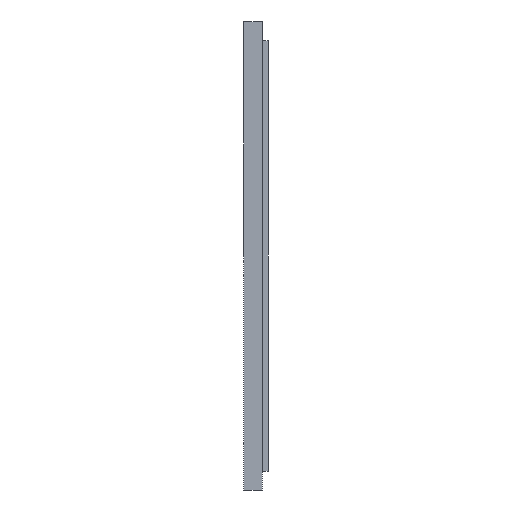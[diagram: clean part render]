
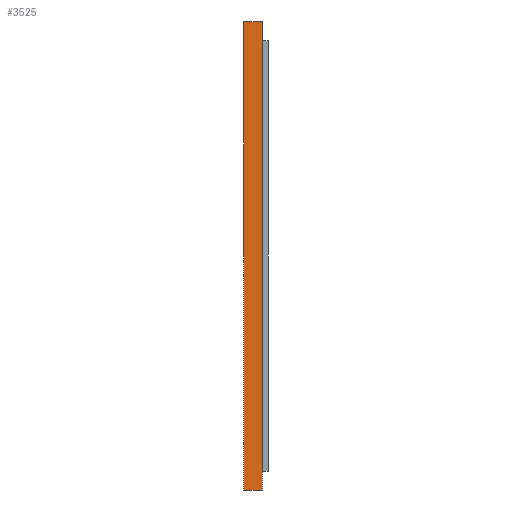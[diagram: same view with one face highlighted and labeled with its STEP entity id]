
A CAD part, left-side view. The second image highlights one B-rep face of the part: STEP entity #3525.
In plain terms, the highlighted planar face has unit normal (-1, 0, 0).
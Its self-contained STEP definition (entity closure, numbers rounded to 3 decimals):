
#22 = FACE_OUTER_BOUND ( 'NONE', #14984, .T. ) ;
#993 = ORIENTED_EDGE ( 'NONE', *, *, #13788, .T. ) ;
#2688 = LINE ( 'NONE', #17580, #5908 ) ;
#2862 = CARTESIAN_POINT ( 'NONE',  ( -227.5, 0.2, -2.5 ) ) ;
#3525 = ADVANCED_FACE ( 'NONE', ( #22 ), #18928, .F. ) ;
#3612 = CARTESIAN_POINT ( 'NONE',  ( -227.5, 0.2, -2.5 ) ) ;
#3668 = VERTEX_POINT ( 'NONE', #15661 ) ;
#3990 = CARTESIAN_POINT ( 'NONE',  ( -227.5, 0., -2.5 ) ) ;
#5488 = VECTOR ( 'NONE', #6218, 1000. ) ;
#5908 = VECTOR ( 'NONE', #9073, 1000. ) ;
#6218 = DIRECTION ( 'NONE',  ( 0., 0., 1. ) ) ;
#6614 = LINE ( 'NONE', #21825, #7022 ) ;
#7022 = VECTOR ( 'NONE', #16795, 1000. ) ;
#7024 = AXIS2_PLACEMENT_3D ( 'NONE', #3612, #10318, #18821 ) ;
#7189 = CARTESIAN_POINT ( 'NONE',  ( -227.5, 0.2, -2.5 ) ) ;
#8359 = ORIENTED_EDGE ( 'NONE', *, *, #19944, .F. ) ;
#8844 = EDGE_CURVE ( 'NONE', #3668, #17365, #6614, .T. ) ;
#9073 = DIRECTION ( 'NONE',  ( 0., -1., 0. ) ) ;
#9791 = LINE ( 'NONE', #2862, #5488 ) ;
#10318 = DIRECTION ( 'NONE',  ( 1., 0., 0. ) ) ;
#10532 = VECTOR ( 'NONE', #17210, 1000. ) ;
#13788 = EDGE_CURVE ( 'NONE', #20812, #17365, #15649, .T. ) ;
#14196 = CARTESIAN_POINT ( 'NONE',  ( -227.5, 0., -2.5 ) ) ;
#14984 = EDGE_LOOP ( 'NONE', ( #993, #17482, #8359, #20556 ) ) ;
#15549 = EDGE_CURVE ( 'NONE', #17944, #20812, #2688, .T. ) ;
#15649 = LINE ( 'NONE', #14196, #10532 ) ;
#15661 = CARTESIAN_POINT ( 'NONE',  ( -227.5, 0.2, 2.5 ) ) ;
#16795 = DIRECTION ( 'NONE',  ( 0., -1., 0. ) ) ;
#17210 = DIRECTION ( 'NONE',  ( 0., 0., 1. ) ) ;
#17365 = VERTEX_POINT ( 'NONE', #20254 ) ;
#17482 = ORIENTED_EDGE ( 'NONE', *, *, #8844, .F. ) ;
#17580 = CARTESIAN_POINT ( 'NONE',  ( -227.5, 0.2, -2.5 ) ) ;
#17944 = VERTEX_POINT ( 'NONE', #7189 ) ;
#18821 = DIRECTION ( 'NONE',  ( 0., 1., 0. ) ) ;
#18928 = PLANE ( 'NONE',  #7024 ) ;
#19944 = EDGE_CURVE ( 'NONE', #17944, #3668, #9791, .T. ) ;
#20254 = CARTESIAN_POINT ( 'NONE',  ( -227.5, 0., 2.5 ) ) ;
#20556 = ORIENTED_EDGE ( 'NONE', *, *, #15549, .T. ) ;
#20812 = VERTEX_POINT ( 'NONE', #3990 ) ;
#21825 = CARTESIAN_POINT ( 'NONE',  ( -227.5, 0.2, 2.5 ) ) ;
